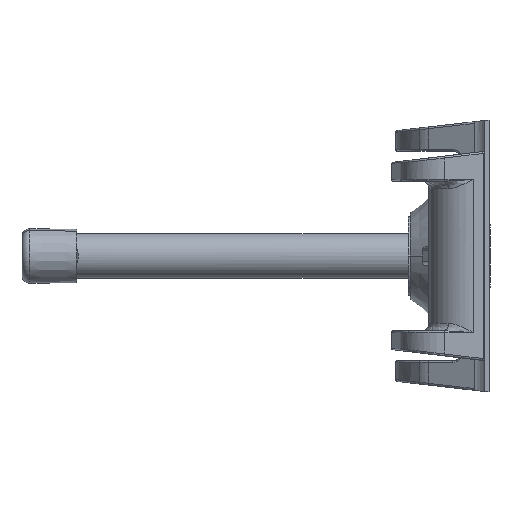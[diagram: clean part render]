
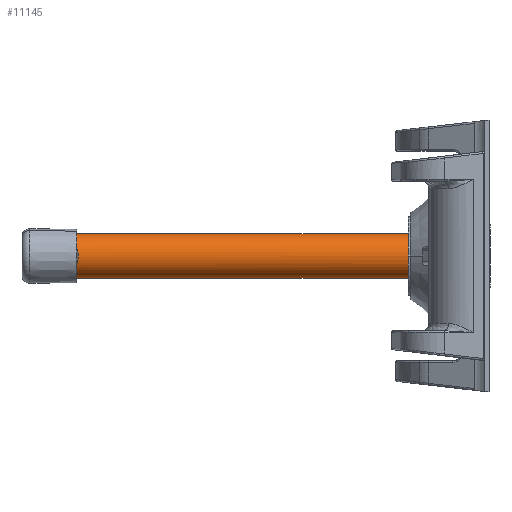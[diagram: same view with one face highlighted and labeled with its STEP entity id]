
A CAD part, front view. The second image highlights one B-rep face of the part: STEP entity #11145.
In plain terms, the highlighted cylindrical face has radius 6 mm (diameter 12 mm), a partial arc.
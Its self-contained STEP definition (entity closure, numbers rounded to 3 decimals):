
#58 = EDGE_CURVE ( 'NONE', #10313, #11678, #10202, .T. ) ;
#179 = ORIENTED_EDGE ( 'NONE', *, *, #1362, .T. ) ;
#541 = VERTEX_POINT ( 'NONE', #10305 ) ;
#542 = AXIS2_PLACEMENT_3D ( 'NONE', #4625, #7511, #2719 ) ;
#575 = CARTESIAN_POINT ( 'NONE',  ( 2.893, 0., 6. ) ) ;
#671 = CARTESIAN_POINT ( 'NONE',  ( -120.5, 0., -6. ) ) ;
#821 = DIRECTION ( 'NONE',  ( -1., 0., 0. ) ) ;
#891 = FACE_OUTER_BOUND ( 'NONE', #9226, .T. ) ;
#960 = CARTESIAN_POINT ( 'NONE',  ( 2.893, -5., 3.317 ) ) ;
#1057 = CIRCLE ( 'NONE', #11395, 6. ) ;
#1111 = ORIENTED_EDGE ( 'NONE', *, *, #58, .T. ) ;
#1300 = ORIENTED_EDGE ( 'NONE', *, *, #8940, .T. ) ;
#1362 = EDGE_CURVE ( 'NONE', #8710, #11451, #1057, .T. ) ;
#1489 = ORIENTED_EDGE ( 'NONE', *, *, #5487, .T. ) ;
#1732 = DIRECTION ( 'NONE',  ( 1., 0., 0. ) ) ;
#1896 = CIRCLE ( 'NONE', #542, 6. ) ;
#2039 = EDGE_CURVE ( 'NONE', #2637, #541, #4797, .T. ) ;
#2081 = VECTOR ( 'NONE', #2465, 1000. ) ;
#2351 = CARTESIAN_POINT ( 'NONE',  ( -118.125, -6.375, -1.244 ) ) ;
#2465 = DIRECTION ( 'NONE',  ( 1., 0., 0. ) ) ;
#2537 = CARTESIAN_POINT ( 'NONE',  ( -108.375, -6.375, 1.244 ) ) ;
#2637 = VERTEX_POINT ( 'NONE', #671 ) ;
#2719 = DIRECTION ( 'NONE',  ( 0., 0., -1. ) ) ;
#2890 = DIRECTION ( 'NONE',  ( 1., 0., 0. ) ) ;
#3667 =( BOUNDED_CURVE ( )  B_SPLINE_CURVE ( 3, ( #9013, #2537, #8155, #7156 ),
 .UNSPECIFIED., .F., .F. ) 
 B_SPLINE_CURVE_WITH_KNOTS ( ( 4, 4 ),
 ( 5.697, 6.869 ),
 .UNSPECIFIED. ) 
 CURVE ( )  GEOMETRIC_REPRESENTATION_ITEM ( )  RATIONAL_B_SPLINE_CURVE ( ( 1., 0.889, 0.889, 1. ) ) 
 REPRESENTATION_ITEM ( '' )  );
#3725 = DIRECTION ( 'NONE',  ( 0., 0., -1. ) ) ;
#4055 = AXIS2_PLACEMENT_3D ( 'NONE', #7455, #1732, #5611 ) ;
#4204 = FACE_BOUND ( 'NONE', #8889, .T. ) ;
#4378 = VERTEX_POINT ( 'NONE', #7627 ) ;
#4566 = VERTEX_POINT ( 'NONE', #10093 ) ;
#4625 = CARTESIAN_POINT ( 'NONE',  ( -20.5, 0., 0. ) ) ;
#4797 = LINE ( 'NONE', #6251, #2081 ) ;
#5019 = CARTESIAN_POINT ( 'NONE',  ( -120.5, -6., 0. ) ) ;
#5126 = DIRECTION ( 'NONE',  ( 1., 0., 0. ) ) ;
#5188 = ORIENTED_EDGE ( 'NONE', *, *, #11172, .T. ) ;
#5317 = CARTESIAN_POINT ( 'NONE',  ( -20.5, 0., 6. ) ) ;
#5487 = EDGE_CURVE ( 'NONE', #4566, #4378, #10345, .T. ) ;
#5611 = DIRECTION ( 'NONE',  ( 0., 0., -1. ) ) ;
#6134 = DIRECTION ( 'NONE',  ( 0., 0., -1. ) ) ;
#6251 = CARTESIAN_POINT ( 'NONE',  ( 2.893, 0., -6. ) ) ;
#6261 = CARTESIAN_POINT ( 'NONE',  ( -109.75, -5., 3.317 ) ) ;
#6454 = CARTESIAN_POINT ( 'NONE',  ( -120.5, 0., 0. ) ) ;
#7146 = ORIENTED_EDGE ( 'NONE', *, *, #8832, .T. ) ;
#7156 = CARTESIAN_POINT ( 'NONE',  ( -109.75, -5., -3.317 ) ) ;
#7163 = CIRCLE ( 'NONE', #4055, 6. ) ;
#7455 = CARTESIAN_POINT ( 'NONE',  ( -120.5, 0., 0. ) ) ;
#7470 = CARTESIAN_POINT ( 'NONE',  ( 2.893, -5., -3.317 ) ) ;
#7511 = DIRECTION ( 'NONE',  ( -1., 0., 0. ) ) ;
#7627 = CARTESIAN_POINT ( 'NONE',  ( -116.75, -5., -3.317 ) ) ;
#7831 = ORIENTED_EDGE ( 'NONE', *, *, #2039, .T. ) ;
#7975 = VECTOR ( 'NONE', #821, 1000. ) ;
#7984 = ORIENTED_EDGE ( 'NONE', *, *, #12146, .F. ) ;
#8002 = CARTESIAN_POINT ( 'NONE',  ( -118.125, -6.375, 1.244 ) ) ;
#8155 = CARTESIAN_POINT ( 'NONE',  ( -108.375, -6.375, -1.244 ) ) ;
#8372 =( BOUNDED_CURVE ( )  B_SPLINE_CURVE ( 3, ( #10734, #2351, #8002, #8910 ),
 .UNSPECIFIED., .F., .F. ) 
 B_SPLINE_CURVE_WITH_KNOTS ( ( 4, 4 ),
 ( 2.556, 3.727 ),
 .UNSPECIFIED. ) 
 CURVE ( )  GEOMETRIC_REPRESENTATION_ITEM ( )  RATIONAL_B_SPLINE_CURVE ( ( 1., 0.889, 0.889, 1. ) ) 
 REPRESENTATION_ITEM ( '' )  );
#8710 = VERTEX_POINT ( 'NONE', #10853 ) ;
#8832 = EDGE_CURVE ( 'NONE', #11678, #4566, #3667, .T. ) ;
#8877 = VECTOR ( 'NONE', #2890, 1000. ) ;
#8889 = EDGE_LOOP ( 'NONE', ( #1489, #5188, #1111, #7146 ) ) ;
#8910 = CARTESIAN_POINT ( 'NONE',  ( -116.75, -5., 3.317 ) ) ;
#8928 = CARTESIAN_POINT ( 'NONE',  ( -116.75, -5., 3.317 ) ) ;
#8940 = EDGE_CURVE ( 'NONE', #11451, #2637, #7163, .T. ) ;
#9013 = CARTESIAN_POINT ( 'NONE',  ( -109.75, -5., 3.317 ) ) ;
#9085 = CYLINDRICAL_SURFACE ( 'NONE', #9592, 6. ) ;
#9226 = EDGE_LOOP ( 'NONE', ( #7984, #179, #1300, #7831, #9445 ) ) ;
#9260 = EDGE_CURVE ( 'NONE', #541, #10414, #1896, .T. ) ;
#9325 = DIRECTION ( 'NONE',  ( 1., 0., 0. ) ) ;
#9445 = ORIENTED_EDGE ( 'NONE', *, *, #9260, .T. ) ;
#9561 = VECTOR ( 'NONE', #10029, 1000. ) ;
#9592 = AXIS2_PLACEMENT_3D ( 'NONE', #10905, #5126, #6134 ) ;
#10029 = DIRECTION ( 'NONE',  ( 1., 0., 0. ) ) ;
#10093 = CARTESIAN_POINT ( 'NONE',  ( -109.75, -5., -3.317 ) ) ;
#10202 = LINE ( 'NONE', #960, #8877 ) ;
#10305 = CARTESIAN_POINT ( 'NONE',  ( -20.5, 0., -6. ) ) ;
#10313 = VERTEX_POINT ( 'NONE', #8928 ) ;
#10345 = LINE ( 'NONE', #7470, #7975 ) ;
#10414 = VERTEX_POINT ( 'NONE', #5317 ) ;
#10450 = LINE ( 'NONE', #575, #9561 ) ;
#10734 = CARTESIAN_POINT ( 'NONE',  ( -116.75, -5., -3.317 ) ) ;
#10853 = CARTESIAN_POINT ( 'NONE',  ( -120.5, 0., 6. ) ) ;
#10905 = CARTESIAN_POINT ( 'NONE',  ( 2.893, 0., 0. ) ) ;
#11145 = ADVANCED_FACE ( 'NONE', ( #891, #4204 ), #9085, .T. ) ;
#11172 = EDGE_CURVE ( 'NONE', #4378, #10313, #8372, .T. ) ;
#11395 = AXIS2_PLACEMENT_3D ( 'NONE', #6454, #9325, #3725 ) ;
#11451 = VERTEX_POINT ( 'NONE', #5019 ) ;
#11678 = VERTEX_POINT ( 'NONE', #6261 ) ;
#12146 = EDGE_CURVE ( 'NONE', #8710, #10414, #10450, .T. ) ;
